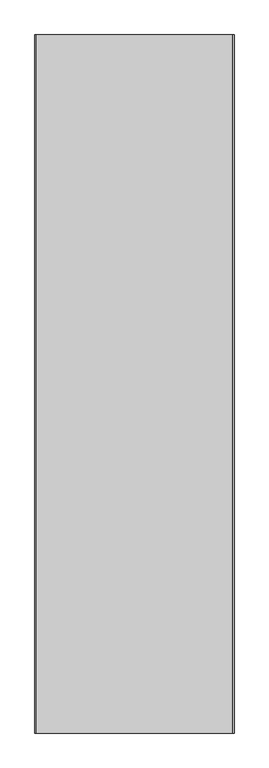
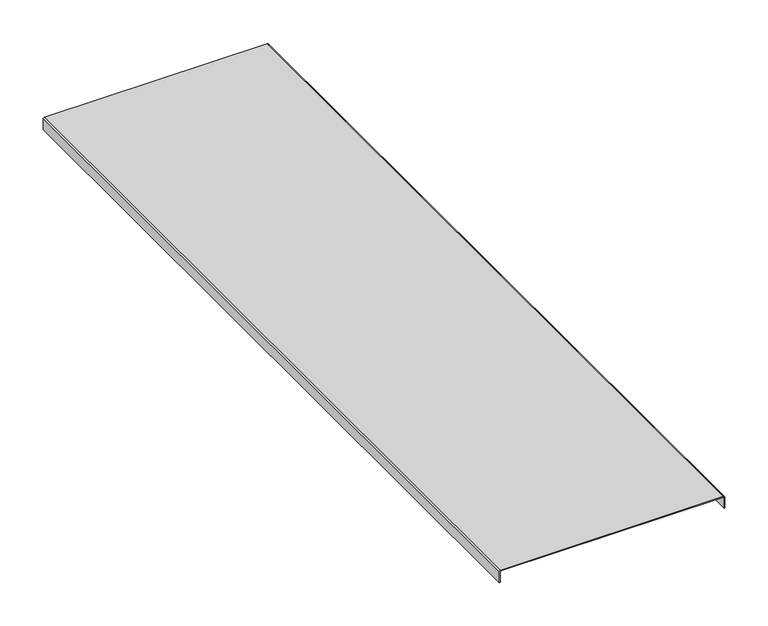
"""IFC4 building model written with IfcOpenShell, lengths in millimetres: proxy geometry, Cable_Tray_Cover_CT_Basorcanal : Basorcanal CT 100X300 (cover)."""

from ifc_helpers import new_model, si_unit, point, frame, frame_2d, origin, place, context, project, spatial, polyline, circle_curve, trimmed, segment, composite_curve, outline, extrude, source, transform, mapped, element, save


def generic_models_4485c74d(model_context):
    return source(origin(), model_context, "Body", "SweptSolid", [
        extrude(outline(composite_curve([segment(trimmed(circle_curve(frame_2d((-1.0, -149.0)), 1.0), [point((-1.0, -150.0))], [point((0.0, -149.0))], True, "CARTESIAN"), True, "CONTINUOUS"), segment(polyline([(0.0, -149.0), (0.0, 149.0)]), True, "CONTINUOUS"), segment(trimmed(circle_curve(frame_2d((-1.0, 149.0)), 1.0), [point((0.0, 149.0))], [point((-1.0, 150.0))], True, "CARTESIAN"), True, "CONTINUOUS"), segment(polyline([(-1.0, 150.0), (-16.0, 150.0), (-16.0, 151.0), (-1.0, 151.0)]), True, "CONTINUOUS"), segment(trimmed(circle_curve(frame_2d((-1.0, 149.0)), 2.0), [point((-1.0, 151.0))], [point((1.0, 149.0))], False, "CARTESIAN"), True, "CONTINUOUS"), segment(polyline([(1.0, 149.0), (1.0, -149.0)]), True, "CONTINUOUS"), segment(trimmed(circle_curve(frame_2d((-1.0, -149.0)), 2.0), [point((1.0, -149.0))], [point((-1.0, -151.0))], False, "CARTESIAN"), True, "CONTINUOUS"), segment(polyline([(-1.0, -151.0), (-16.0, -151.0), (-16.0, -150.0), (-1.0, -150.0)]), True, "CONTINUOUS")], self_intersect=False)), frame((0.0, 0.0, 0.0), z_axis=(0.0, 1.0, 0.0), x_axis=(0.0, 0.0, 1.0)), (0.0, 0.0, 1.0), 1058.8),
    ])


if __name__ == "__main__":
    model = new_model("IFC4")
    model_context = context("Model", 3, world=origin())
    ifc_project = project(units=[si_unit("LENGTHUNIT", "METRE", prefix="MILLI")], contexts=[model_context])
    site = spatial("IfcSite", under=ifc_project)
    building = spatial("IfcBuilding", under=site)
    placement = place(None, origin())
    generic_models_shape = generic_models_4485c74d(model_context)
    element("IfcBuildingElementProxy", 1, Name="Cable_Tray_Cover_CT_Basorcanal : Basorcanal CT 100X300 (cover)", ObjectType="Cable_Tray_Cover_CT_Basorcanal : Basorcanal CT 100X300 (cover)", at=placement, inside=building, context=model_context, shape_type="MappedRepresentation", body=[
        mapped(generic_models_shape, transform((0.0, 0.0, 0.0), x_axis=(1.0, 0.0, 0.0), y_axis=(0.0, 1.0, 0.0), z_axis=(0.0, 0.0, 1.0))),
    ])
    save(model, "model.ifc")
